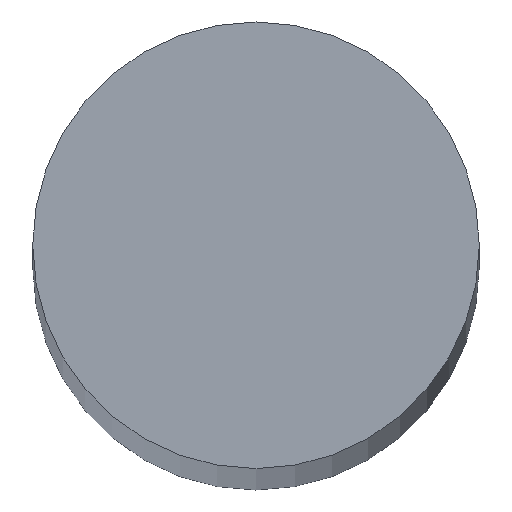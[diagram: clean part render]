
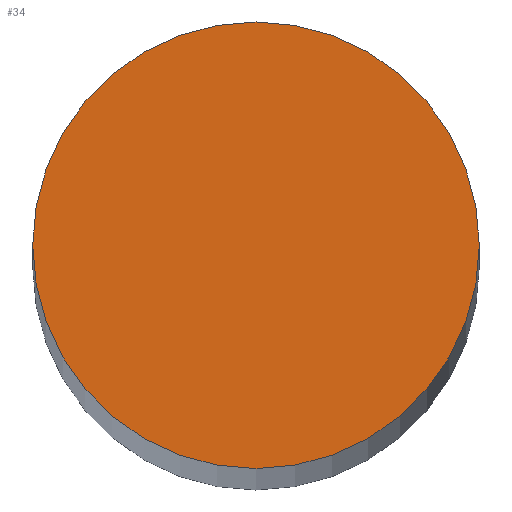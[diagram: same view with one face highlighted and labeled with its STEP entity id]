
A CAD part, top view. The second image highlights one B-rep face of the part: STEP entity #34.
In plain terms, the highlighted planar face has unit normal (0, 0, 1).
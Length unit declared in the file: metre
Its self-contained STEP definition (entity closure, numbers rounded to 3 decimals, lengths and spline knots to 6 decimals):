
#12=PLANE('',#52);
#16=ORIENTED_EDGE('',*,*,#18,.T.);
#18=EDGE_CURVE('',#20,#20,#22,.T.);
#20=VERTEX_POINT('',#69);
#22=CIRCLE('',#50,0.002);
#26=EDGE_LOOP('',(#16));
#30=FACE_BOUND('',#26,.T.);
#34=ADVANCED_FACE('',(#30),#12,.T.);
#50=AXIS2_PLACEMENT_3D('',#68,#58,#59);
#52=AXIS2_PLACEMENT_3D('',#72,#62,#63);
#58=DIRECTION('',(0.,0.,1.));
#59=DIRECTION('',(1.,0.,0.));
#62=DIRECTION('',(0.,0.,1.));
#63=DIRECTION('',(1.,0.,0.));
#68=CARTESIAN_POINT('',(0.,0.,0.11));
#69=CARTESIAN_POINT('',(0.002,0.,0.11));
#72=CARTESIAN_POINT('',(0.,0.,0.11));
